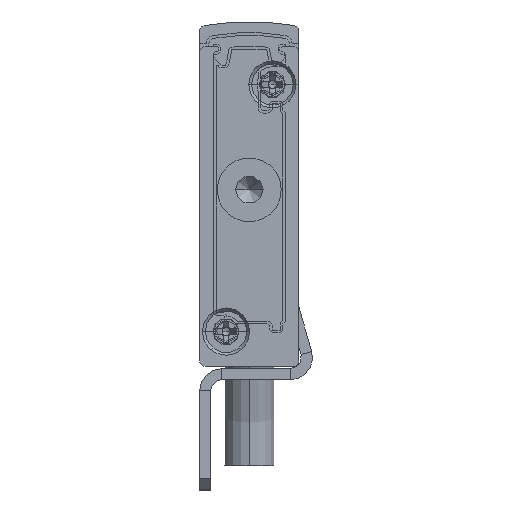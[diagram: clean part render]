
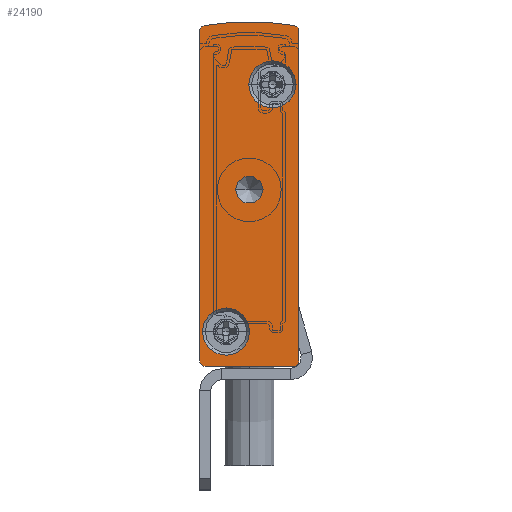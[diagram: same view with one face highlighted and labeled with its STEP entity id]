
A CAD part, front view. The second image highlights one B-rep face of the part: STEP entity #24190.
In plain terms, the highlighted planar face has unit normal (0, -1, 0).
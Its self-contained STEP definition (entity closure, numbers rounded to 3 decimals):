
#897 = CARTESIAN_POINT ( 'NONE',  ( -8.5, -2.5, 0. ) ) ;
#1132 = PLANE ( 'NONE',  #13602 ) ;
#1301 = VERTEX_POINT ( 'NONE', #19134 ) ;
#1647 = DIRECTION ( 'NONE',  ( 0., -1., 0. ) ) ;
#1668 = CARTESIAN_POINT ( 'NONE',  ( -2.4, -2.5, 25.55 ) ) ;
#1799 = EDGE_CURVE ( 'NONE', #3251, #6818, #5309, .T. ) ;
#1863 = DIRECTION ( 'NONE',  ( 0., 1., 0. ) ) ;
#2209 = CARTESIAN_POINT ( 'NONE',  ( -8.75, -2.5, 3.15 ) ) ;
#3035 = EDGE_LOOP ( 'NONE', ( #10720, #4319 ) ) ;
#3078 = EDGE_LOOP ( 'NONE', ( #8215, #7323 ) ) ;
#3142 = ORIENTED_EDGE ( 'NONE', *, *, #9852, .F. ) ;
#3231 = CARTESIAN_POINT ( 'NONE',  ( 0., -2.5, 30.402 ) ) ;
#3234 = DIRECTION ( 'NONE',  ( 0., -1., 0. ) ) ;
#3251 = VERTEX_POINT ( 'NONE', #10598 ) ;
#3388 = DIRECTION ( 'NONE',  ( 0., 0., -1. ) ) ;
#3405 = EDGE_CURVE ( 'NONE', #10324, #12831, #20928, .T. ) ;
#3493 = EDGE_CURVE ( 'NONE', #7810, #1301, #11581, .T. ) ;
#3536 = DIRECTION ( 'NONE',  ( -1., 0., 0. ) ) ;
#4043 = CARTESIAN_POINT ( 'NONE',  ( -4.5, -2.5, 16. ) ) ;
#4199 = CARTESIAN_POINT ( 'NONE',  ( -8.5, -2.5, 30.402 ) ) ;
#4202 = FACE_BOUND ( 'NONE', #3078, .T. ) ;
#4319 = ORIENTED_EDGE ( 'NONE', *, *, #15187, .F. ) ;
#4437 = DIRECTION ( 'NONE',  ( -1., 0., 0. ) ) ;
#4644 = EDGE_CURVE ( 'NONE', #9909, #3251, #15010, .T. ) ;
#5088 = DIRECTION ( 'NONE',  ( -1., 0., 0. ) ) ;
#5144 = CARTESIAN_POINT ( 'NONE',  ( -0.5, -2.5, 0. ) ) ;
#5146 = FACE_BOUND ( 'NONE', #13631, .T. ) ;
#5152 = CARTESIAN_POINT ( 'NONE',  ( -8.5, -2.5, 30.402 ) ) ;
#5309 = CIRCLE ( 'NONE', #16279, 0.5 ) ;
#5728 = VECTOR ( 'NONE', #5088, 1000. ) ;
#5826 = DIRECTION ( 'NONE',  ( 0., -1., 0. ) ) ;
#5924 = CIRCLE ( 'NONE', #16181, 2.15 ) ;
#6028 = CARTESIAN_POINT ( 'NONE',  ( -0.5, -2.5, 0.5 ) ) ;
#6038 = DIRECTION ( 'NONE',  ( 0., 1., 0. ) ) ;
#6040 = ORIENTED_EDGE ( 'NONE', *, *, #19180, .F. ) ;
#6427 = DIRECTION ( 'NONE',  ( -1., 0., 0. ) ) ;
#6784 = AXIS2_PLACEMENT_3D ( 'NONE', #18853, #7018, #4437 ) ;
#6818 = VERTEX_POINT ( 'NONE', #13674 ) ;
#6992 = EDGE_CURVE ( 'NONE', #12831, #9909, #15189, .T. ) ;
#6997 = CIRCLE ( 'NONE', #6784, 1.25 ) ;
#7018 = DIRECTION ( 'NONE',  ( 0., 1., 0. ) ) ;
#7082 = AXIS2_PLACEMENT_3D ( 'NONE', #25667, #1863, #3536 ) ;
#7175 = VERTEX_POINT ( 'NONE', #21277 ) ;
#7289 = AXIS2_PLACEMENT_3D ( 'NONE', #8030, #18311, #18038 ) ;
#7323 = ORIENTED_EDGE ( 'NONE', *, *, #21021, .F. ) ;
#7383 = CARTESIAN_POINT ( 'NONE',  ( -6.6, -2.5, 3.15 ) ) ;
#7410 = VERTEX_POINT ( 'NONE', #14488 ) ;
#7546 = CIRCLE ( 'NONE', #7289, 23.658 ) ;
#7746 = CIRCLE ( 'NONE', #21621, 2.15 ) ;
#7810 = VERTEX_POINT ( 'NONE', #23118 ) ;
#8030 = CARTESIAN_POINT ( 'NONE',  ( -4.5, -2.5, 7.592 ) ) ;
#8215 = ORIENTED_EDGE ( 'NONE', *, *, #10677, .F. ) ;
#8662 = DIRECTION ( 'NONE',  ( 0., 1., 0. ) ) ;
#8675 = AXIS2_PLACEMENT_3D ( 'NONE', #6028, #19946, #12268 ) ;
#8768 = DIRECTION ( 'NONE',  ( 0., 0., 1. ) ) ;
#9002 = VERTEX_POINT ( 'NONE', #14730 ) ;
#9108 = DIRECTION ( 'NONE',  ( -1., 0., 0. ) ) ;
#9442 = FACE_BOUND ( 'NONE', #3035, .T. ) ;
#9574 = ORIENTED_EDGE ( 'NONE', *, *, #12545, .F. ) ;
#9789 = DIRECTION ( 'NONE',  ( 1., 0., 0. ) ) ;
#9852 = EDGE_CURVE ( 'NONE', #10263, #17636, #21921, .T. ) ;
#9909 = VERTEX_POINT ( 'NONE', #5144 ) ;
#10263 = VERTEX_POINT ( 'NONE', #12034 ) ;
#10324 = VERTEX_POINT ( 'NONE', #24461 ) ;
#10598 = CARTESIAN_POINT ( 'NONE',  ( -8.5, -2.5, 0. ) ) ;
#10677 = EDGE_CURVE ( 'NONE', #9002, #23504, #23438, .T. ) ;
#10720 = ORIENTED_EDGE ( 'NONE', *, *, #3493, .F. ) ;
#11468 = CARTESIAN_POINT ( 'NONE',  ( -6.6, -2.5, 3.15 ) ) ;
#11581 = CIRCLE ( 'NONE', #15513, 2.15 ) ;
#12013 = CARTESIAN_POINT ( 'NONE',  ( -2.4, -2.5, 25.55 ) ) ;
#12034 = CARTESIAN_POINT ( 'NONE',  ( -9., -2.5, 30.402 ) ) ;
#12090 = ORIENTED_EDGE ( 'NONE', *, *, #17111, .T. ) ;
#12268 = DIRECTION ( 'NONE',  ( -1., 0., 0. ) ) ;
#12545 = EDGE_CURVE ( 'NONE', #17636, #19196, #7546, .T. ) ;
#12642 = ORIENTED_EDGE ( 'NONE', *, *, #1799, .F. ) ;
#12831 = VERTEX_POINT ( 'NONE', #14842 ) ;
#13602 = AXIS2_PLACEMENT_3D ( 'NONE', #5152, #25171, #9108 ) ;
#13631 = EDGE_LOOP ( 'NONE', ( #12090, #25183 ) ) ;
#13674 = CARTESIAN_POINT ( 'NONE',  ( -9., -2.5, 0.5 ) ) ;
#14175 = EDGE_CURVE ( 'NONE', #7410, #7175, #22474, .T. ) ;
#14440 = CIRCLE ( 'NONE', #7082, 0.5 ) ;
#14488 = CARTESIAN_POINT ( 'NONE',  ( -3.25, -2.5, 16. ) ) ;
#14677 = CARTESIAN_POINT ( 'NONE',  ( -8.592, -2.5, 30.893 ) ) ;
#14730 = CARTESIAN_POINT ( 'NONE',  ( -4.45, -2.5, 3.15 ) ) ;
#14842 = CARTESIAN_POINT ( 'NONE',  ( 0., -2.5, 0.5 ) ) ;
#15010 = LINE ( 'NONE', #897, #5728 ) ;
#15187 = EDGE_CURVE ( 'NONE', #1301, #7810, #5924, .T. ) ;
#15189 = CIRCLE ( 'NONE', #8675, 0.5 ) ;
#15444 = VECTOR ( 'NONE', #8768, 1000. ) ;
#15513 = AXIS2_PLACEMENT_3D ( 'NONE', #12013, #1647, #18037 ) ;
#15567 = DIRECTION ( 'NONE',  ( 0., -1., 0. ) ) ;
#15990 = EDGE_LOOP ( 'NONE', ( #3142, #6040, #12642, #17805, #21867, #18468, #19176, #9574 ) ) ;
#16164 = DIRECTION ( 'NONE',  ( 0., 1., 0. ) ) ;
#16181 = AXIS2_PLACEMENT_3D ( 'NONE', #1668, #15567, #17219 ) ;
#16279 = AXIS2_PLACEMENT_3D ( 'NONE', #17034, #8662, #18966 ) ;
#16795 = CARTESIAN_POINT ( 'NONE',  ( -0.408, -2.5, 30.893 ) ) ;
#17034 = CARTESIAN_POINT ( 'NONE',  ( -8.5, -2.5, 0.5 ) ) ;
#17062 = EDGE_CURVE ( 'NONE', #19196, #10324, #14440, .T. ) ;
#17111 = EDGE_CURVE ( 'NONE', #7175, #7410, #6997, .T. ) ;
#17219 = DIRECTION ( 'NONE',  ( 1., 0., 0. ) ) ;
#17534 = AXIS2_PLACEMENT_3D ( 'NONE', #7383, #3234, #19135 ) ;
#17636 = VERTEX_POINT ( 'NONE', #14677 ) ;
#17805 = ORIENTED_EDGE ( 'NONE', *, *, #4644, .F. ) ;
#18037 = DIRECTION ( 'NONE',  ( 1., 0., 0. ) ) ;
#18038 = DIRECTION ( 'NONE',  ( -1., 0., 0. ) ) ;
#18311 = DIRECTION ( 'NONE',  ( 0., 1., 0. ) ) ;
#18468 = ORIENTED_EDGE ( 'NONE', *, *, #3405, .F. ) ;
#18731 = VECTOR ( 'NONE', #3388, 1000. ) ;
#18853 = CARTESIAN_POINT ( 'NONE',  ( -4.5, -2.5, 16. ) ) ;
#18966 = DIRECTION ( 'NONE',  ( -1., 0., 0. ) ) ;
#19134 = CARTESIAN_POINT ( 'NONE',  ( -4.55, -2.5, 25.55 ) ) ;
#19135 = DIRECTION ( 'NONE',  ( 1., 0., 0. ) ) ;
#19176 = ORIENTED_EDGE ( 'NONE', *, *, #17062, .F. ) ;
#19180 = EDGE_CURVE ( 'NONE', #6818, #10263, #21023, .T. ) ;
#19196 = VERTEX_POINT ( 'NONE', #16795 ) ;
#19946 = DIRECTION ( 'NONE',  ( 0., 1., 0. ) ) ;
#20485 = AXIS2_PLACEMENT_3D ( 'NONE', #4199, #16164, #6427 ) ;
#20804 = CARTESIAN_POINT ( 'NONE',  ( -9., -2.5, 30.402 ) ) ;
#20928 = LINE ( 'NONE', #3231, #18731 ) ;
#21021 = EDGE_CURVE ( 'NONE', #23504, #9002, #7746, .T. ) ;
#21023 = LINE ( 'NONE', #20804, #15444 ) ;
#21277 = CARTESIAN_POINT ( 'NONE',  ( -5.75, -2.5, 16. ) ) ;
#21621 = AXIS2_PLACEMENT_3D ( 'NONE', #11468, #5826, #9789 ) ;
#21867 = ORIENTED_EDGE ( 'NONE', *, *, #6992, .F. ) ;
#21921 = CIRCLE ( 'NONE', #20485, 0.5 ) ;
#22254 = DIRECTION ( 'NONE',  ( -1., 0., 0. ) ) ;
#22474 = CIRCLE ( 'NONE', #25216, 1.25 ) ;
#23118 = CARTESIAN_POINT ( 'NONE',  ( -0.25, -2.5, 25.55 ) ) ;
#23438 = CIRCLE ( 'NONE', #17534, 2.15 ) ;
#23504 = VERTEX_POINT ( 'NONE', #2209 ) ;
#24190 = ADVANCED_FACE ( 'NONE', ( #9442, #4202, #24742, #5146 ), #1132, .F. ) ;
#24461 = CARTESIAN_POINT ( 'NONE',  ( 0., -2.5, 30.402 ) ) ;
#24742 = FACE_OUTER_BOUND ( 'NONE', #15990, .T. ) ;
#25171 = DIRECTION ( 'NONE',  ( 0., 1., 0. ) ) ;
#25183 = ORIENTED_EDGE ( 'NONE', *, *, #14175, .T. ) ;
#25216 = AXIS2_PLACEMENT_3D ( 'NONE', #4043, #6038, #22254 ) ;
#25667 = CARTESIAN_POINT ( 'NONE',  ( -0.5, -2.5, 30.402 ) ) ;
